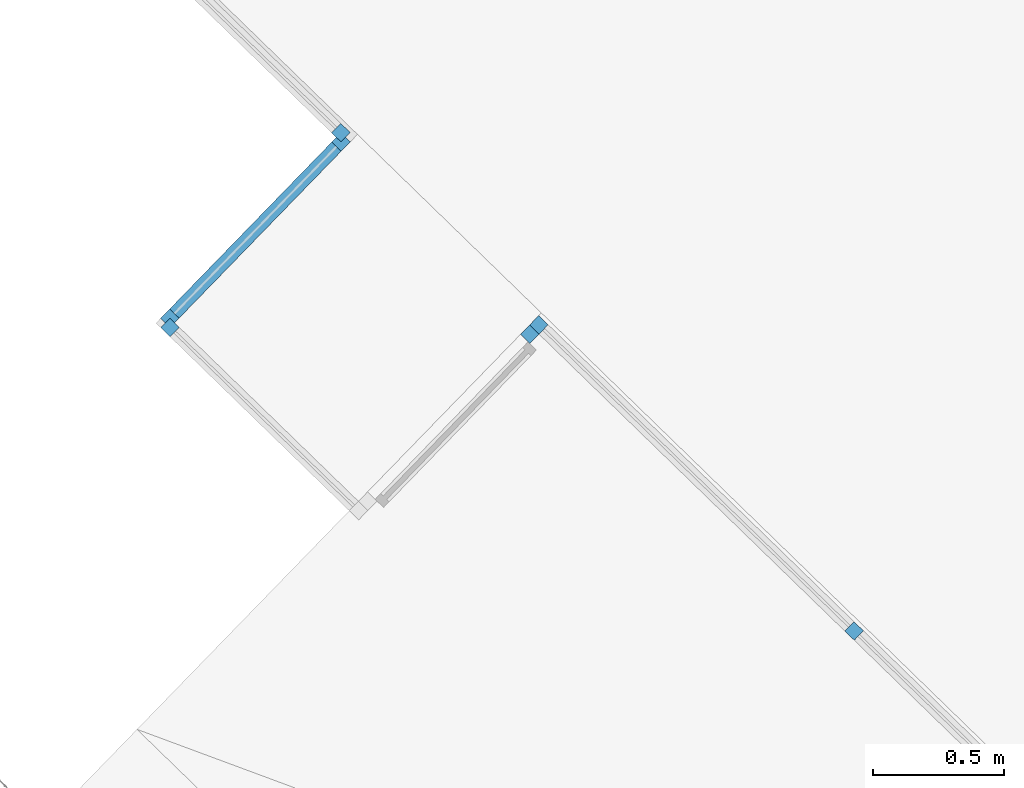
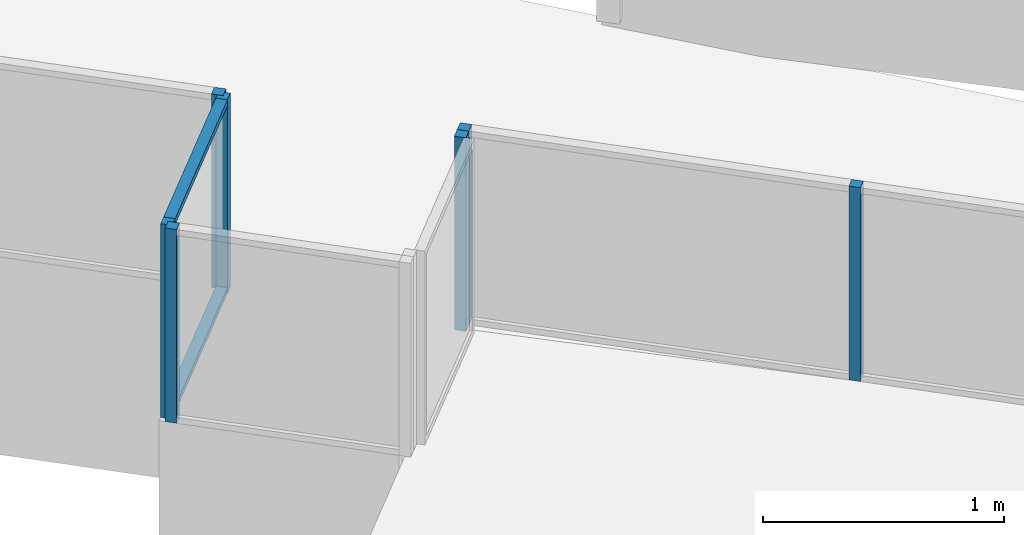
# One storey, part 10 of 37: 9 members, 5 elements without a shape of their own.
"""IFC2X3 building model written with IfcOpenShell, lengths in centimetres."""

from ifc_helpers import new_model, entity, si_unit, converted_unit, derived_unit, direction, frame, frame_2d, origin, origin_2d_with_axis, place, context, subcontext, project, spatial, rectangle, extrude, material, type_object, element, aggregate, save


model = new_model("IFC2X3")

# Units and contexts
model_context = context("Model", 3, precision=0.001, world=origin(), true_north=direction((0.717475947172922, 0.696583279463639)))
body_context = subcontext(model_context, "Body", "Model", "MODEL_VIEW")
ifc_project = project(units=[si_unit("LENGTHUNIT", "METRE", prefix="CENTI"), si_unit("AREAUNIT", "SQUARE_METRE"), si_unit("VOLUMEUNIT", "CUBIC_METRE"), converted_unit("PLANEANGLEUNIT", "DEGREE", entity("IfcRatioMeasure", 0.0174532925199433), si_unit("PLANEANGLEUNIT", "RADIAN"), dimensions=[0, 0, 0, 0, 0, 0, 0]), si_unit("MASSUNIT", "GRAM", prefix="KILO"), derived_unit("MASSDENSITYUNIT", [(si_unit("MASSUNIT", "GRAM", prefix="KILO"), 1), (si_unit("LENGTHUNIT", "METRE"), -3)]), si_unit("TIMEUNIT", "SECOND"), si_unit("FREQUENCYUNIT", "HERTZ"), si_unit("THERMODYNAMICTEMPERATUREUNIT", "DEGREE_CELSIUS"), derived_unit("THERMALTRANSMITTANCEUNIT", [(si_unit("MASSUNIT", "GRAM", prefix="KILO"), 1), (si_unit("THERMODYNAMICTEMPERATUREUNIT", "KELVIN"), -1), (si_unit("TIMEUNIT", "SECOND"), -3)]), derived_unit("VOLUMETRICFLOWRATEUNIT", [(si_unit("LENGTHUNIT", "METRE"), 3), (si_unit("TIMEUNIT", "SECOND"), -1)]), si_unit("ELECTRICCURRENTUNIT", "AMPERE"), si_unit("ELECTRICVOLTAGEUNIT", "VOLT"), si_unit("POWERUNIT", "WATT"), si_unit("FORCEUNIT", "NEWTON", prefix="KILO"), si_unit("ILLUMINANCEUNIT", "LUX"), si_unit("LUMINOUSFLUXUNIT", "LUMEN"), si_unit("LUMINOUSINTENSITYUNIT", "CANDELA"), derived_unit("USERDEFINED", [(si_unit("MASSUNIT", "GRAM", prefix="KILO"), -1), (si_unit("LENGTHUNIT", "METRE"), -2), (si_unit("TIMEUNIT", "SECOND"), 3), (si_unit("LUMINOUSFLUXUNIT", "LUMEN"), 1)]), derived_unit("LINEARVELOCITYUNIT", [(si_unit("LENGTHUNIT", "METRE"), 1), (si_unit("TIMEUNIT", "SECOND"), -1)]), si_unit("PRESSUREUNIT", "PASCAL"), derived_unit("USERDEFINED", [(si_unit("LENGTHUNIT", "METRE"), -2), (si_unit("MASSUNIT", "GRAM", prefix="KILO"), 1), (si_unit("TIMEUNIT", "SECOND"), -2)])], contexts=[model_context])

# Site, building, storey
site_placement = place(None, frame((0.0, 0.0, 0.0), z_axis=(0.0, 0.0, 1.0), x_axis=(0.696583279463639, 0.717475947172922, 0.0)))
site = spatial("IfcSite", under=ifc_project, at=site_placement, Name="Surface", CompositionType="ELEMENT")
building_placement = place(site_placement, origin())
building = spatial("IfcBuilding", under=site, at=building_placement, CompositionType="ELEMENT")
storey_placement = place(building_placement, origin())
storey = spatial("IfcBuildingStorey", under=building, at=storey_placement, Name="Nivel 0.00", CompositionType="ELEMENT", Elevation=0.0)

# Curtain wall, member
curtain_wall_type_1 = type_object("IfcCurtainWallType", Name="Curtain Wall:REJA_BAJA_100mm", PredefinedType="NOTDEFINED")
curtain_wall_1_placement = place(storey_placement, origin())
curtain_wall_1 = element("IfcCurtainWall", 1, at=curtain_wall_1_placement, inside=storey, type_object=curtain_wall_type_1, Name="Curtain Wall:REJA_BAJA_100mm", ObjectType="Curtain Wall:REJA_BAJA_100mm")
ifc_material = material(Name="Aluminum")
member_1_placement = place(curtain_wall_1_placement, origin())
member_1 = element("IfcMember", 2, at=member_1_placement, material=ifc_material, Name="Curtain Wall:REJA_BAJA_100mm", ObjectType="Curtain Wall:REJA_BAJA_100mm", context=body_context, shape_type="SweptSolid", body=[
    extrude(rectangle(XDim=5.00000000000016, YDim=4.99999999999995, at=frame_2d((-2.16715534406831e-13, 0.0), x_axis=(1.0, 0.0))), frame((1796.6277064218, 681.22563048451, 150.0), z_axis=(0.0, 0.0, 1.0), x_axis=(-1.0, 0.0, 0.0)), (0.0, 0.0, 1.0), 98.0),
])
aggregate(curtain_wall_1, [member_1])

# Curtain wall, members
curtain_wall_type_2 = type_object("IfcCurtainWallType", Name="Curtain Wall:REJA_BAJA_SIMPLE_100mm", PredefinedType="NOTDEFINED")
curtain_wall_2_placement = place(storey_placement, origin())
curtain_wall_2 = element("IfcCurtainWall", 3, at=curtain_wall_2_placement, inside=storey, type_object=curtain_wall_type_2, Name="Curtain Wall:REJA_BAJA_SIMPLE_100mm", ObjectType="Curtain Wall:REJA_BAJA_SIMPLE_100mm")
member_2_placement = place(curtain_wall_2_placement, origin())
member_2 = element("IfcMember", 4, at=member_2_placement, material=ifc_material, Name="Curtain Wall:REJA_BAJA_SIMPLE_100mm", ObjectType="Curtain Wall:REJA_BAJA_SIMPLE_100mm", context=body_context, shape_type="SweptSolid", body=[
    extrude(rectangle(XDim=3.00000000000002, YDim=4.99999999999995, at=frame_2d((2.70894418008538e-14, 3.24851257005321e-13), x_axis=(1.0, 0.0))), frame((1703.05257485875, 678.72563048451, 246.5), z_axis=(1.0, 0.0, 0.0), x_axis=(0.0, 0.0, -1.0)), (0.0, 0.0, 1.0), 88.5751315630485),
])
member_3_placement = place(curtain_wall_2_placement, origin())
member_3 = element("IfcMember", 5, at=member_3_placement, material=ifc_material, Name="Curtain Wall:REJA_BAJA_SIMPLE_100mm", ObjectType="Curtain Wall:REJA_BAJA_SIMPLE_100mm", context=body_context, shape_type="SweptSolid", body=[
    extrude(rectangle(XDim=2.99999999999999, YDim=4.99999999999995, at=frame_2d((-1.35447209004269e-14, 2.16493489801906e-13), x_axis=(1.0, 0.0))), frame((1791.6277064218, 678.72563048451, 151.5), z_axis=(-1.0, 0.0, 0.0), x_axis=(0.0, 0.0, -1.0)), (0.0, 0.0, 1.0), 88.5751315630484),
])
member_4_placement = place(curtain_wall_2_placement, origin())
member_4 = element("IfcMember", 6, at=member_4_placement, material=ifc_material, Name="Curtain Wall:REJA_BAJA_SIMPLE_100mm", ObjectType="Curtain Wall:REJA_BAJA_SIMPLE_100mm", context=body_context, shape_type="SweptSolid", body=[
    extrude(rectangle(XDim=4.99999999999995, YDim=4.99999999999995, at=frame_2d((1.08357767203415e-13, -1.08357767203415e-13), x_axis=(1.0, 0.0))), frame((1700.55257485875, 678.72563048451, 150.0), z_axis=(0.0, 0.0, 1.0), x_axis=(-1.0, 0.0, 0.0)), (0.0, 0.0, 1.0), 98.0),
])
member_5_placement = place(curtain_wall_2_placement, origin())
member_5 = element("IfcMember", 7, at=member_5_placement, material=ifc_material, Name="Curtain Wall:REJA_BAJA_SIMPLE_100mm", ObjectType="Curtain Wall:REJA_BAJA_SIMPLE_100mm", context=body_context, shape_type="SweptSolid", body=[
    extrude(rectangle(XDim=4.99999999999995, YDim=4.99999999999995, at=frame_2d((1.08357767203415e-13, 0.0), x_axis=(1.0, 0.0))), frame((1794.1277064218, 678.72563048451, 248.0), z_axis=(0.0, 0.0, -1.0), x_axis=(-1.0, 0.0, 0.0)), (0.0, 0.0, 1.0), 98.0),
])
aggregate(curtain_wall_2, [member_2, member_3, member_4, member_5])

# Curtain wall, member
curtain_wall_3_placement = place(storey_placement, origin())
curtain_wall_3 = element("IfcCurtainWall", 8, at=curtain_wall_3_placement, inside=storey, type_object=curtain_wall_type_2, Name="Curtain Wall:REJA_BAJA_SIMPLE_100mm", ObjectType="Curtain Wall:REJA_BAJA_SIMPLE_100mm")
member_6_placement = place(curtain_wall_3_placement, origin())
member_6 = element("IfcMember", 9, at=member_6_placement, material=ifc_material, Name="Curtain Wall:REJA_BAJA_SIMPLE_100mm", ObjectType="Curtain Wall:REJA_BAJA_SIMPLE_100mm", context=body_context, shape_type="SweptSolid", body=[
    extrude(rectangle(XDim=5.00000000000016, YDim=5.00000000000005, at=frame_2d((0.0, -5.41788836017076e-14), x_axis=(1.0, 0.0))), frame((1698.05257485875, 676.22563048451, 248.0), z_axis=(0.0, 0.0, -1.0), x_axis=(-1.0, 0.0, 0.0)), (0.0, 0.0, 1.0), 98.0),
])
aggregate(curtain_wall_3, [member_6])

curtain_wall_4_placement = place(storey_placement, origin())
curtain_wall_4 = element("IfcCurtainWall", 10, at=curtain_wall_4_placement, inside=storey, type_object=curtain_wall_type_2, Name="Curtain Wall:REJA_BAJA_SIMPLE_100mm", ObjectType="Curtain Wall:REJA_BAJA_SIMPLE_100mm")
member_7_placement = place(curtain_wall_4_placement, origin())
member_7 = element("IfcMember", 11, at=member_7_placement, material=ifc_material, Name="Curtain Wall:REJA_BAJA_SIMPLE_100mm", ObjectType="Curtain Wall:REJA_BAJA_SIMPLE_100mm", context=body_context, shape_type="SweptSolid", body=[
    extrude(rectangle(XDim=4.99999999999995, YDim=4.99999999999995, at=frame_2d((-1.08357767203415e-13, 0.0), x_axis=(1.0, 0.0))), frame((1791.6277064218, 576.14923286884, 150.0), z_axis=(0.0, 0.0, 1.0), x_axis=(-1.0, 0.0, 0.0)), (0.0, 0.0, 1.0), 98.0),
])
aggregate(curtain_wall_4, [member_7])

# Curtain wall, members
curtain_wall_5_placement = place(storey_placement, origin())
curtain_wall_5 = element("IfcCurtainWall", 12, at=curtain_wall_5_placement, inside=storey, type_object=curtain_wall_type_1, Name="Curtain Wall:REJA_BAJA_100mm", ObjectType="Curtain Wall:REJA_BAJA_100mm")
member_8_placement = place(curtain_wall_5_placement, origin())
member_8 = element("IfcMember", 13, at=member_8_placement, material=ifc_material, Name="Curtain Wall:REJA_BAJA_100mm", ObjectType="Curtain Wall:REJA_BAJA_100mm", context=body_context, shape_type="SweptSolid", body=[
    extrude(rectangle(XDim=5.00000000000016, YDim=4.99999999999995, at=origin_2d_with_axis()), frame((1796.6277064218, 576.14923286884, 248.0), z_axis=(0.0, 0.0, -1.0), x_axis=(-1.0, 0.0, 0.0)), (0.0, 0.0, 1.0), 98.0),
])
member_9_placement = place(curtain_wall_5_placement, origin())
member_9 = element("IfcMember", 14, at=member_9_placement, material=ifc_material, Name="Curtain Wall:REJA_BAJA_100mm", ObjectType="Curtain Wall:REJA_BAJA_100mm", context=body_context, shape_type="SweptSolid", body=[
    extrude(rectangle(XDim=5.00000000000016, YDim=4.99999999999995, at=frame_2d((0.0, -5.41788836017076e-14), x_axis=(1.0, 0.0))), frame((1796.6277064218, 408.8158995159, 150.0), z_axis=(0.0, 0.0, 1.0), x_axis=(-1.0, 0.0, 0.0)), (0.0, 0.0, 1.0), 98.0),
])
aggregate(curtain_wall_5, [member_8, member_9])

save(model, "model.ifc")
